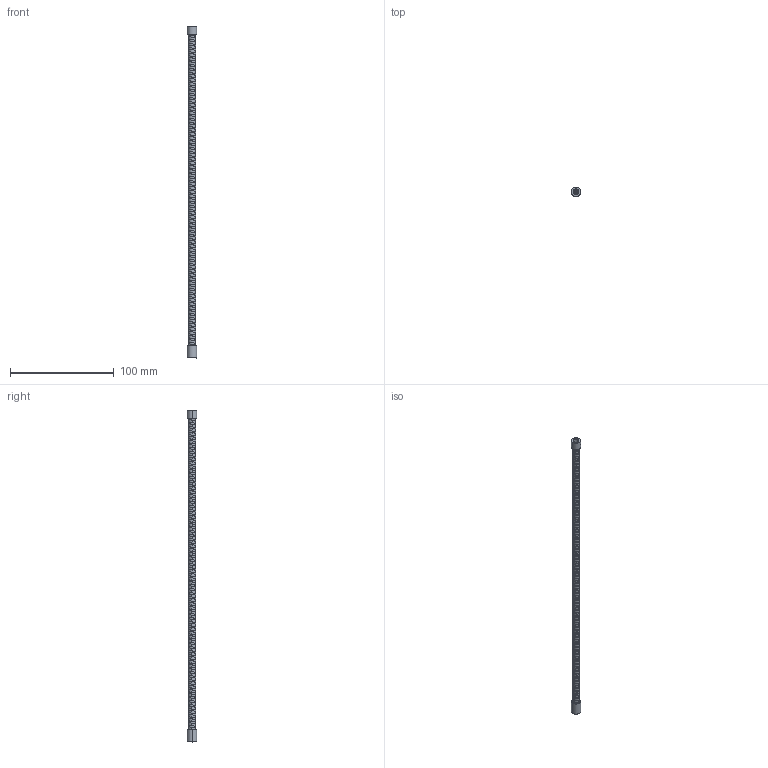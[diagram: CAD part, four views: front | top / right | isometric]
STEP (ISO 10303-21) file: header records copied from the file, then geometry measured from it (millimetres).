
FILE_DESCRIPTION (( 'STEP AP214' ), '1' );
FILE_NAME ('FDH-610.STEP', '2019-06-18T02:41:14', ( '' ), ( '' ), 'SwSTEP 2.0', 'SolidWorks 2018', '' );
FILE_SCHEMA (( 'AUTOMOTIVE_DESIGN' ));
Length unit declared in the file: millimetre
Products named in the file (1): FDH-610
Bounding box: 9 x 9 x 320 mm (x, y, z)
Volume: 10538.2 mm3; surface area: 11899.5 mm2
Topology: 1 solids, 1 shells, 210 faces, 603 edges, 399 vertices
Faces by surface type: cylinder 189, plane 9, cone 6, bspline 6
Entity records: 20076 total; most frequent: CARTESIAN_POINT 15628, ORIENTED_EDGE 1206, DIRECTION 674, EDGE_CURVE 603, VERTEX_POINT 399, AXIS2_PLACEMENT_3D 234, EDGE_LOOP 216, ADVANCED_FACE 210
